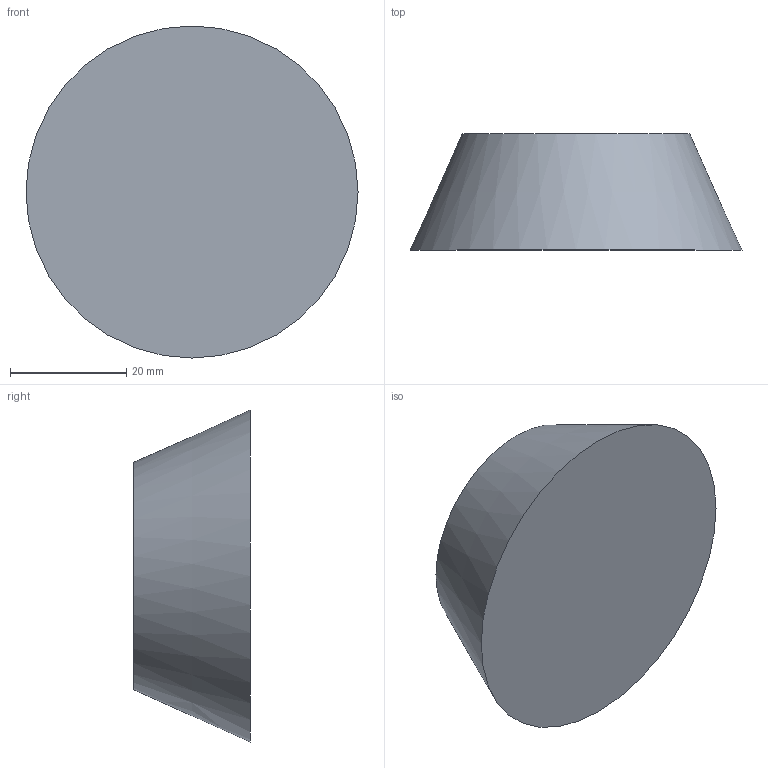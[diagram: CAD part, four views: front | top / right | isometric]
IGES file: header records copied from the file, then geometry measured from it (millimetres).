
Start section: Data from Parasolid IGES Translator 20.0.26, Copyright(c) 2006 Siemens P LM Software. All Rights Reserved.
Global section: file name: 9266415.igs; native system: By Siemens PLM Incorporated; preprocessor: XPlus GENERIC/IGES 20.0.26; author: Noname; organization: Noname; date: 20200630.115421; units: millimetre
Bounding box: 57 x 20 x 57 mm (x, y, z)
Surface area: 7254.7 mm2 (no closed solid volume)
Topology: 0 solids, 0 shells, 7 faces, 18 edges, 12 vertices
Faces by surface type: extrusion 4, revolution 3
